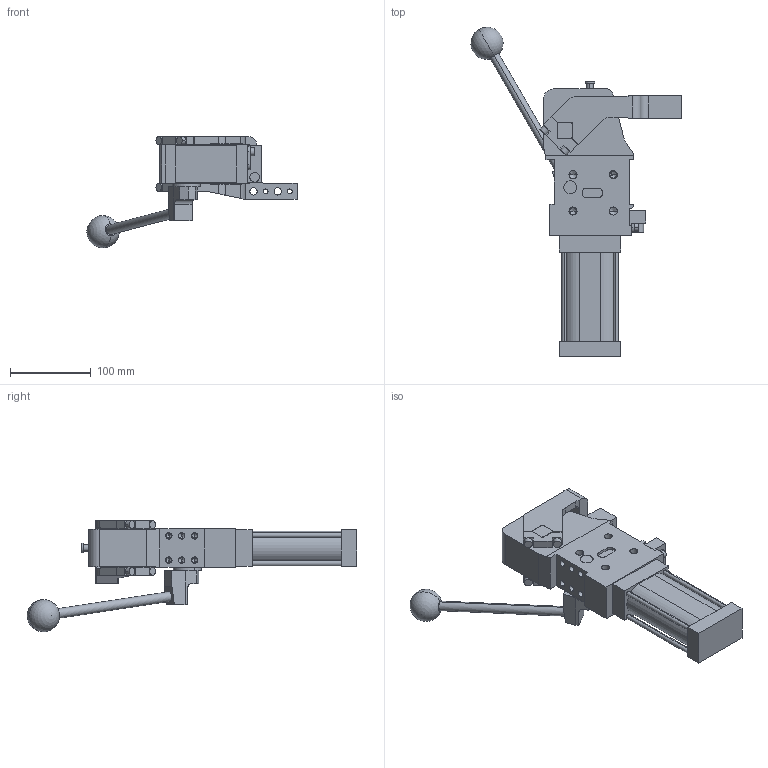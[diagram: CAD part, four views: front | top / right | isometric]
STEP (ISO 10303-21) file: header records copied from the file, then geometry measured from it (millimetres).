
FILE_DESCRIPTION (( 'STEP AP214' ), '1' );
FILE_NAME ('cplm50lbv1dsi1g_16.STEP', '2023-01-26T13:12:23', ( '' ), ( '' ), 'SwSTEP 2.0', 'SolidWorks 2022', '' );
FILE_SCHEMA (( 'AUTOMOTIVE_DESIGN' ));
Length unit declared in the file: millimetre
Products named in the file (5): blocchetto_VEP_0; cplm50lbv1dsi1g_16; comando_manuale_cplm_50; meccanica_cplm_50; leva_sx_offset_15_cpl50
Assembly tree (4 placements, depth 2):
  cplm50lbv1dsi1g_16
    meccanica_cplm_50
    blocchetto_VEP_0
    leva_sx_offset_15_cpl50
    comando_manuale_cplm_50
Bounding box: 260.54 x 408.46 x 138.5 mm (x, y, z)
Volume: 1469960 mm3; surface area: 181399.7 mm2
Topology: 4 solids, 4 shells, 431 faces, 1108 edges, 691 vertices
Faces by surface type: plane 212, cylinder 167, cone 50, sphere 2
Entity records: 14371 total; most frequent: DIRECTION 2277, CARTESIAN_POINT 2271, ORIENTED_EDGE 2114, EDGE_CURVE 1057, AXIS2_PLACEMENT_3D 792, LINE 693, VECTOR 693, VERTEX_POINT 688
